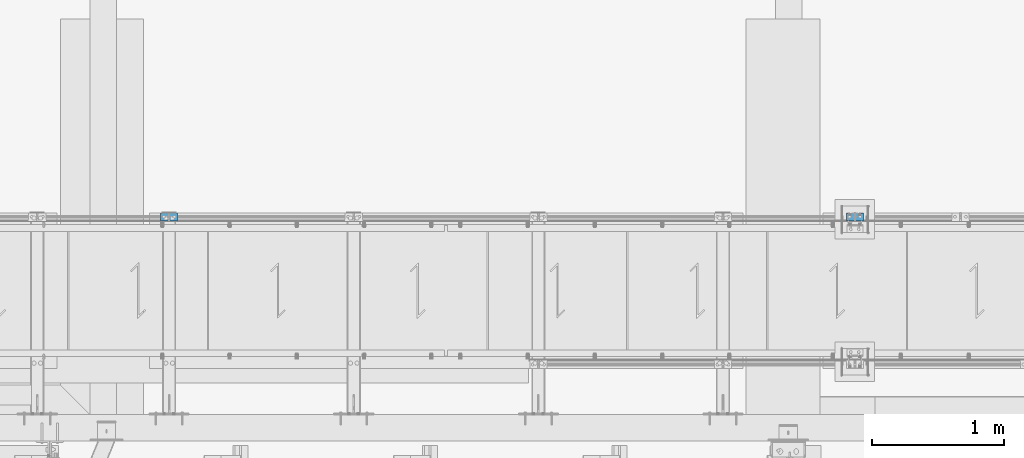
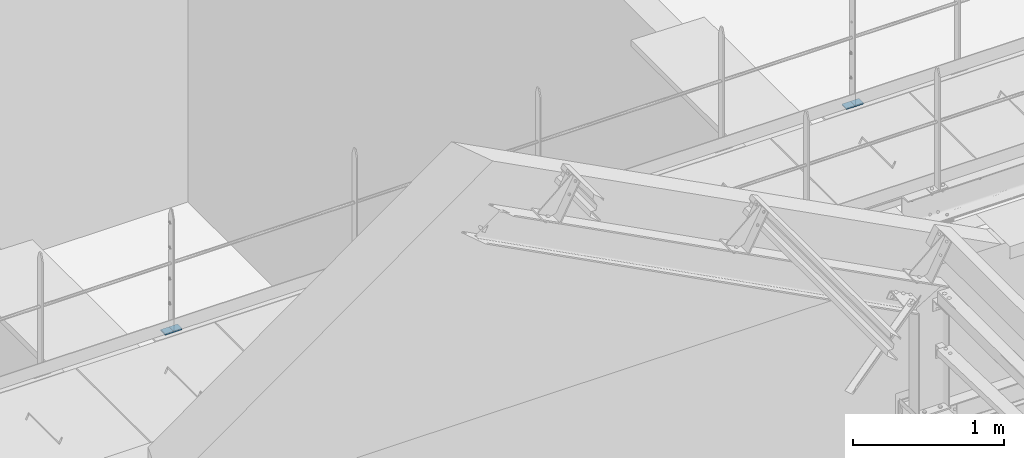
# One storey, part 124 of 362: 4 beams, 3 elements without a shape of their own.
"""IFC2X3 building model written with IfcOpenShell, lengths in millimetres."""

from ifc_helpers import new_model, si_unit, frame, origin_with_axes, origin_2d_with_axis, place, context, subcontext, project, spatial, rectangle, extrude, material, type_object, element, aggregate, save


model = new_model("IFC2X3")

# Units and contexts
model_context = context("Model", 3, precision=1e-05, world=origin_with_axes())
body_context = subcontext(model_context, "Body", "Model", "MODEL_VIEW")
ifc_project = project(units=[si_unit("LENGTHUNIT", "METRE", prefix="MILLI"), si_unit("AREAUNIT", "SQUARE_METRE"), si_unit("VOLUMEUNIT", "CUBIC_METRE"), si_unit("MASSUNIT", "GRAM", prefix="KILO"), si_unit("TIMEUNIT", "SECOND"), si_unit("PLANEANGLEUNIT", "RADIAN"), si_unit("SOLIDANGLEUNIT", "STERADIAN"), si_unit("THERMODYNAMICTEMPERATUREUNIT", "DEGREE_CELSIUS"), si_unit("LUMINOUSINTENSITYUNIT", "LUMEN")], contexts=[model_context])

# Site, building, storey
site_placement = place(None, origin_with_axes())
site = spatial("IfcSite", under=ifc_project, at=site_placement, Name="Undefined", CompositionType="ELEMENT")
building_placement = place(site_placement, origin_with_axes())
building = spatial("IfcBuilding", under=site, at=building_placement, Name="Undefined", CompositionType="ELEMENT")
storey_placement = place(building_placement, origin_with_axes())
storey = spatial("IfcBuildingStorey", under=building, at=storey_placement, Name="Undefined", CompositionType="ELEMENT", Elevation=0.0)

# Assembly, beam
assembly_1_placement = place(storey_placement, origin_with_axes())
assembly_1 = element("IfcElementAssembly", 1, at=assembly_1_placement, inside=storey, Name="MAIN COURANTE", AssemblyPlace="NOTDEFINED", PredefinedType="NOTDEFINED")
ifc_material = material(Name="Undefined/S235-E24")
beam_type = type_object("IfcBeamType", Name="PL10*60", PredefinedType="NOTDEFINED")
beam_1_placement = place(assembly_1_placement, frame((20054.9961849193, 17089.9938659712, 8705.00000001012), z_axis=(0.0, 1.0, 0.0), x_axis=(1.0, 0.0, 0.0)))
beam_1 = element("IfcBeam", 2, at=beam_1_placement, type_object=beam_type, material=ifc_material, Name="PLATINE", ObjectType="PL10*60", context=body_context, shape_type="SweptSolid", body=[
    extrude(rectangle(XDim=10.0, YDim=60.0, at=origin_2d_with_axis()), frame((65.0, 0.0, 0.0), z_axis=(-1.0, 0.0, 0.0), x_axis=(0.0, -1.0, 0.0)), (0.0, 0.0, 1.0), 65.0),
])
aggregate(assembly_1, [beam_1])

# Assembly, beams
assembly_2_placement = place(storey_placement, origin_with_axes())
assembly_2 = element("IfcElementAssembly", 3, at=assembly_2_placement, inside=storey, Name="MAIN COURANTE", AssemblyPlace="NOTDEFINED", PredefinedType="NOTDEFINED")
beam_2_placement = place(assembly_2_placement, frame((20054.9961849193, 17089.9938659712, 8705.00000001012), z_axis=(0.0, 1.0, 0.0), x_axis=(-1.0, 0.0, 0.0)))
beam_2 = element("IfcBeam", 4, at=beam_2_placement, type_object=beam_type, material=ifc_material, Name="PLATINE", ObjectType="PL10*60", context=body_context, shape_type="SweptSolid", body=[
    extrude(rectangle(XDim=10.0, YDim=60.0, at=origin_2d_with_axis()), frame((65.0, 0.0, 0.0), z_axis=(-1.0, 0.0, 0.0), x_axis=(0.0, -1.0, 0.0)), (0.0, 0.0, 1.0), 65.0),
])
beam_3_placement = place(assembly_2_placement, frame((14854.9961849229, 17089.9938659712, 8705.00000001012), z_axis=(0.0, 1.0, 0.0), x_axis=(1.0, 0.0, 0.0)))
beam_3 = element("IfcBeam", 5, at=beam_3_placement, type_object=beam_type, material=ifc_material, Name="PLATINE", ObjectType="PL10*60", context=body_context, shape_type="SweptSolid", body=[
    extrude(rectangle(XDim=10.0, YDim=60.0, at=origin_2d_with_axis()), frame((65.0, 0.0, 0.0), z_axis=(-1.0, 0.0, 0.0), x_axis=(0.0, -1.0, 0.0)), (0.0, 0.0, 1.0), 65.0),
])
aggregate(assembly_2, [beam_2, beam_3])

# Assembly, beam
assembly_3_placement = place(storey_placement, origin_with_axes())
assembly_3 = element("IfcElementAssembly", 6, at=assembly_3_placement, inside=storey, Name="MAIN COURANTE", AssemblyPlace="NOTDEFINED", PredefinedType="NOTDEFINED")
beam_4_placement = place(assembly_3_placement, frame((14854.9961849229, 17089.9938659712, 8705.00000001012), z_axis=(0.0, 1.0, 0.0), x_axis=(-1.0, 0.0, 0.0)))
beam_4 = element("IfcBeam", 7, at=beam_4_placement, type_object=beam_type, material=ifc_material, Name="PLATINE", ObjectType="PL10*60", context=body_context, shape_type="SweptSolid", body=[
    extrude(rectangle(XDim=10.0, YDim=60.0, at=origin_2d_with_axis()), frame((65.0, 0.0, 0.0), z_axis=(-1.0, 0.0, 0.0), x_axis=(0.0, -1.0, 0.0)), (0.0, 0.0, 1.0), 65.0),
])
aggregate(assembly_3, [beam_4])

save(model, "model.ifc")
